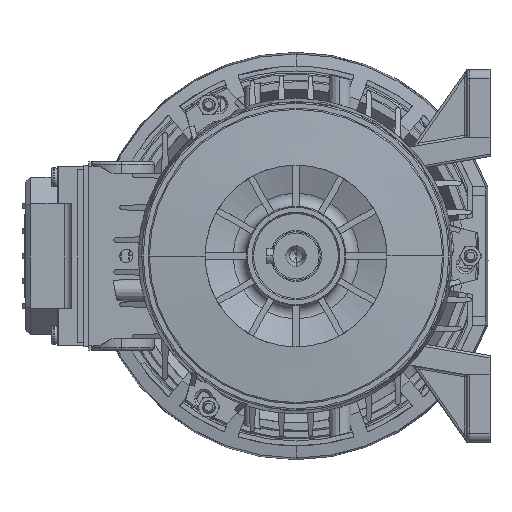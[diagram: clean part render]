
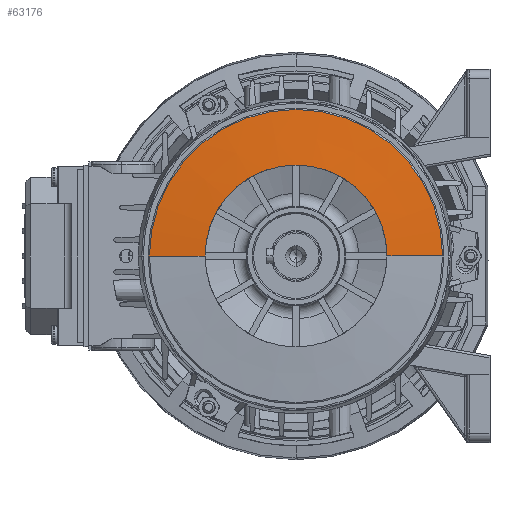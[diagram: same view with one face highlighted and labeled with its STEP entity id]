
A CAD part, left-side view. The second image highlights one B-rep face of the part: STEP entity #63176.
In plain terms, the highlighted conical face has half-angle 85 degrees and reference radius 60.452 mm.
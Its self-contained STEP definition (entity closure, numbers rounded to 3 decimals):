
#2945 = CARTESIAN_POINT ( 'NONE',  ( 0., 2.008, 60.452 ) ) ;
#8502 = VERTEX_POINT ( 'NONE', #53188 ) ;
#11469 = CARTESIAN_POINT ( 'NONE',  ( 0., 2.008, -60.452 ) ) ;
#12043 = LINE ( 'NONE', #2945, #33867 ) ;
#12085 = AXIS2_PLACEMENT_3D ( 'NONE', #32727, #90248, #41008 ) ;
#12105 = ORIENTED_EDGE ( 'NONE', *, *, #53937, .F. ) ;
#15477 = DIRECTION ( 'NONE',  ( 0., 1., 0. ) ) ;
#17639 = EDGE_CURVE ( 'NONE', #89511, #40212, #58353, .T. ) ;
#19230 = CARTESIAN_POINT ( 'NONE',  ( 0., 2.008, 0. ) ) ;
#20815 = ORIENTED_EDGE ( 'NONE', *, *, #67324, .F. ) ;
#26832 = CARTESIAN_POINT ( 'NONE',  ( 0., 0., -37.5 ) ) ;
#27502 = DIRECTION ( 'NONE',  ( 0., 1., 0. ) ) ;
#32727 = CARTESIAN_POINT ( 'NONE',  ( 0., 2.008, 0. ) ) ;
#33867 = VECTOR ( 'NONE', #52120, 1000. ) ;
#38876 = ORIENTED_EDGE ( 'NONE', *, *, #75283, .T. ) ;
#40212 = VERTEX_POINT ( 'NONE', #26832 ) ;
#41008 = DIRECTION ( 'NONE',  ( 0., 0., 1. ) ) ;
#41358 = CARTESIAN_POINT ( 'NONE',  ( 0., 0., 37.5 ) ) ;
#49819 = AXIS2_PLACEMENT_3D ( 'NONE', #64661, #15477, #73012 ) ;
#51912 = VECTOR ( 'NONE', #58218, 1000. ) ;
#52120 = DIRECTION ( 'NONE',  ( 0., 0.087, 0.996 ) ) ;
#52272 = EDGE_LOOP ( 'NONE', ( #56507, #38876, #20815, #12105 ) ) ;
#53188 = CARTESIAN_POINT ( 'NONE',  ( 0., 2.008, 60.452 ) ) ;
#53937 = EDGE_CURVE ( 'NONE', #89511, #8502, #12043, .T. ) ;
#56507 = ORIENTED_EDGE ( 'NONE', *, *, #17639, .T. ) ;
#58218 = DIRECTION ( 'NONE',  ( 0., 0.087, -0.996 ) ) ;
#58353 = CIRCLE ( 'NONE', #49819, 37.5 ) ;
#60651 = CONICAL_SURFACE ( 'NONE', #73860, 60.452, 1.484 ) ;
#63176 = ADVANCED_FACE ( 'NONE', ( #71064 ), #60651, .T. ) ;
#64661 = CARTESIAN_POINT ( 'NONE',  ( 0., 0., 0. ) ) ;
#67324 = EDGE_CURVE ( 'NONE', #8502, #95003, #78342, .T. ) ;
#71064 = FACE_OUTER_BOUND ( 'NONE', #52272, .T. ) ;
#73012 = DIRECTION ( 'NONE',  ( 0., 0., 1. ) ) ;
#73860 = AXIS2_PLACEMENT_3D ( 'NONE', #19230, #27502, #93264 ) ;
#73864 = LINE ( 'NONE', #91027, #51912 ) ;
#75283 = EDGE_CURVE ( 'NONE', #40212, #95003, #73864, .T. ) ;
#78342 = CIRCLE ( 'NONE', #12085, 60.452 ) ;
#89511 = VERTEX_POINT ( 'NONE', #41358 ) ;
#90248 = DIRECTION ( 'NONE',  ( 0., 1., 0. ) ) ;
#91027 = CARTESIAN_POINT ( 'NONE',  ( 0., 2.008, -60.452 ) ) ;
#93264 = DIRECTION ( 'NONE',  ( 0., 0., 1. ) ) ;
#95003 = VERTEX_POINT ( 'NONE', #11469 ) ;
